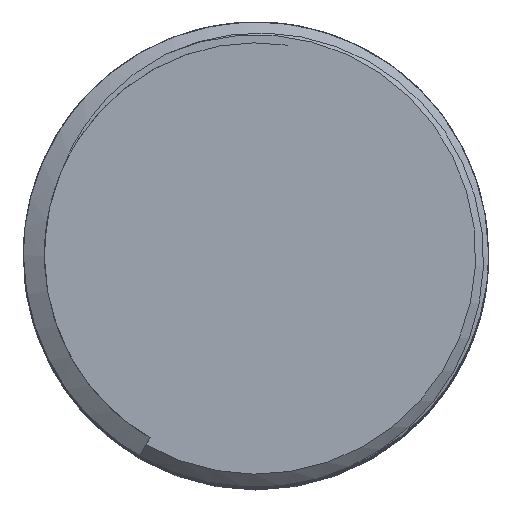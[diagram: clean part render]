
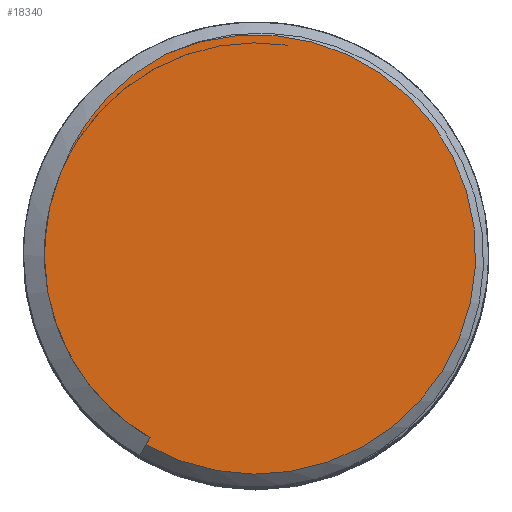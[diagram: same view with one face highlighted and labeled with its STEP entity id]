
A CAD part, top view. The second image highlights one B-rep face of the part: STEP entity #18340.
In plain terms, the highlighted planar face has unit normal (0, 0, 1).
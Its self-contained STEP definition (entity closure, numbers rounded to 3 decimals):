
#170 = CARTESIAN_POINT ( 'NONE',  ( -4.25, -7.361, 50. ) ) ;
#234 = ORIENTED_EDGE ( 'NONE', *, *, #12006, .T. ) ;
#260 = CARTESIAN_POINT ( 'NONE',  ( 0., 0., 50. ) ) ;
#548 = PLANE ( 'NONE',  #3999 ) ;
#647 = DIRECTION ( 'NONE',  ( 1., 0., 0. ) ) ;
#725 = EDGE_CURVE ( 'NONE', #8753, #9300, #1392, .T. ) ;
#845 = CARTESIAN_POINT ( 'NONE',  ( -4.094, -7.091, 50. ) ) ;
#1392 = LINE ( 'NONE', #10394, #8945 ) ;
#1468 = CARTESIAN_POINT ( 'NONE',  ( -5.627, 6.202, 50. ) ) ;
#1514 = CARTESIAN_POINT ( 'NONE',  ( -4.094, -7.091, 50. ) ) ;
#1678 = CARTESIAN_POINT ( 'NONE',  ( -3.501, 7.746, 50. ) ) ;
#1704 = CARTESIAN_POINT ( 'NONE',  ( -6.02, -5.572, 50. ) ) ;
#1745 = CARTESIAN_POINT ( 'NONE',  ( 0., 0., 50. ) ) ;
#2418 = VERTEX_POINT ( 'NONE', #1678 ) ;
#2800 = CARTESIAN_POINT ( 'NONE',  ( -7.942, 2.222, 50. ) ) ;
#2897 = CARTESIAN_POINT ( 'NONE',  ( -4.521, -6.845, 50. ) ) ;
#3046 = EDGE_CURVE ( 'NONE', #2418, #10863, #17725, .T. ) ;
#3237 = CARTESIAN_POINT ( 'NONE',  ( -7.565, 3.133, 50. ) ) ;
#3479 = DIRECTION ( 'NONE',  ( -0.5, -0.866, 0. ) ) ;
#3999 = AXIS2_PLACEMENT_3D ( 'NONE', #260, #11063, #647 ) ;
#4173 = CIRCLE ( 'NONE', #13045, 8.5 ) ;
#4524 = CARTESIAN_POINT ( 'NONE',  ( -7.168, 4.102, 50. ) ) ;
#4668 = CARTESIAN_POINT ( 'NONE',  ( -5.675, -5.923, 50. ) ) ;
#5340 = EDGE_CURVE ( 'NONE', #10863, #8753, #9043, .T. ) ;
#5874 = CARTESIAN_POINT ( 'NONE',  ( -8.152, 1.245, 50. ) ) ;
#6261 = CARTESIAN_POINT ( 'NONE',  ( -4.923, -6.561, 50. ) ) ;
#7500 = DIRECTION ( 'NONE',  ( 0., 0., 1. ) ) ;
#7507 = CARTESIAN_POINT ( 'NONE',  ( -6.158, 5.619, 50. ) ) ;
#7700 = CARTESIAN_POINT ( 'NONE',  ( -5.81, 6.014, 50. ) ) ;
#7787 = DIRECTION ( 'NONE',  ( -1., 0., 0. ) ) ;
#8753 = VERTEX_POINT ( 'NONE', #845 ) ;
#8945 = VECTOR ( 'NONE', #3479, 1000. ) ;
#8994 = CARTESIAN_POINT ( 'NONE',  ( -3.501, 7.746, 50. ) ) ;
#9043 = B_SPLINE_CURVE_WITH_KNOTS ( 'NONE', 3,
 ( #9137, #2800, #5874, #14990, #15185, #10527, #12114, #10628, #12312, #16754, #16459, #9227, #14891, #1704, #4668, #6261, #2897, #1514 ),
 .UNSPECIFIED., .F., .F.,
 ( 4, 2, 2, 2, 2, 2, 2, 2, 4 ),
 ( 0., 0.003, 0.004, 0.006, 0.007, 0.007, 0.009, 0.01, 0.012 ),
 .UNSPECIFIED. ) ;
#9137 = CARTESIAN_POINT ( 'NONE',  ( -7.565, 3.133, 50. ) ) ;
#9153 = ORIENTED_EDGE ( 'NONE', *, *, #725, .T. ) ;
#9227 = CARTESIAN_POINT ( 'NONE',  ( -6.922, -4.402, 50. ) ) ;
#9300 = VERTEX_POINT ( 'NONE', #170 ) ;
#9659 = FACE_OUTER_BOUND ( 'NONE', #16571, .T. ) ;
#9756 = ORIENTED_EDGE ( 'NONE', *, *, #3046, .T. ) ;
#10394 = CARTESIAN_POINT ( 'NONE',  ( 0., 0., 50. ) ) ;
#10527 = CARTESIAN_POINT ( 'NONE',  ( -8.027, -1.686, 50. ) ) ;
#10579 = CARTESIAN_POINT ( 'NONE',  ( -7.389, 3.63, 50. ) ) ;
#10628 = CARTESIAN_POINT ( 'NONE',  ( -7.678, -2.856, 50. ) ) ;
#10863 = VERTEX_POINT ( 'NONE', #16985 ) ;
#11063 = DIRECTION ( 'NONE',  ( 0., 0., 1. ) ) ;
#12006 = EDGE_CURVE ( 'NONE', #9300, #2418, #4173, .T. ) ;
#12069 = CARTESIAN_POINT ( 'NONE',  ( -6.772, 4.773, 50. ) ) ;
#12114 = CARTESIAN_POINT ( 'NONE',  ( -7.913, -2.159, 50. ) ) ;
#12312 = CARTESIAN_POINT ( 'NONE',  ( -7.588, -3.086, 50. ) ) ;
#13045 = AXIS2_PLACEMENT_3D ( 'NONE', #1745, #7500, #7787 ) ;
#13557 = CARTESIAN_POINT ( 'NONE',  ( -6.63, 4.991, 50. ) ) ;
#13656 = CARTESIAN_POINT ( 'NONE',  ( -3.985, 7.495, 50. ) ) ;
#14891 = CARTESIAN_POINT ( 'NONE',  ( -6.645, -4.81, 50. ) ) ;
#14990 = CARTESIAN_POINT ( 'NONE',  ( -8.2, -0.229, 50. ) ) ;
#15185 = CARTESIAN_POINT ( 'NONE',  ( -8.171, -0.723, 50. ) ) ;
#15327 = CARTESIAN_POINT ( 'NONE',  ( -5.042, 6.733, 50. ) ) ;
#16459 = CARTESIAN_POINT ( 'NONE',  ( -7.28, -3.756, 50. ) ) ;
#16571 = EDGE_LOOP ( 'NONE', ( #16649, #9153, #234, #9756 ) ) ;
#16649 = ORIENTED_EDGE ( 'NONE', *, *, #5340, .T. ) ;
#16705 = CARTESIAN_POINT ( 'NONE',  ( -6.323, 5.413, 50. ) ) ;
#16754 = CARTESIAN_POINT ( 'NONE',  ( -7.389, -3.536, 50. ) ) ;
#16803 = CARTESIAN_POINT ( 'NONE',  ( -5.243, 6.562, 50. ) ) ;
#16985 = CARTESIAN_POINT ( 'NONE',  ( -7.565, 3.133, 50. ) ) ;
#17725 = B_SPLINE_CURVE_WITH_KNOTS ( 'NONE', 3,
 ( #8994, #13656, #18191, #15327, #16803, #1468, #7700, #7507, #16705, #13557, #12069, #4524, #10579, #3237 ),
 .UNSPECIFIED., .F., .F.,
 ( 4, 2, 2, 2, 2, 2, 4 ),
 ( 0.003, 0.004, 0.005, 0.006, 0.007, 0.008, 0.009 ),
 .UNSPECIFIED. ) ;
#18191 = CARTESIAN_POINT ( 'NONE',  ( -4.423, 7.215, 50. ) ) ;
#18340 = ADVANCED_FACE ( 'NONE', ( #9659 ), #548, .T. ) ;
